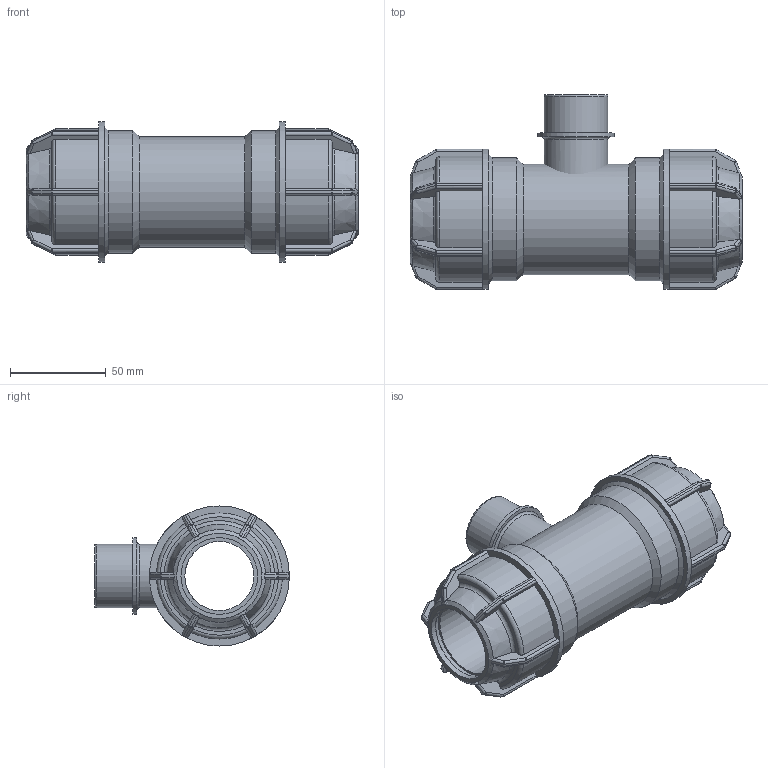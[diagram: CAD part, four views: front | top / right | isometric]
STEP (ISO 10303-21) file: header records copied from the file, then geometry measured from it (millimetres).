
FILE_DESCRIPTION(/* description */ ('PLASSON L.14 TEE MALE ADAPTOR (SILVER) 40-1"-40'),/* implementation_level */ '2;1');
FILE_NAME(/* name */ 'C:\Dropbox\KIMPROJECTS-Inventor\99-16-3568-Processing\Silver+MF ISRAEL\148400\148400040010.ipt.stp',/* time_stamp */ '2018-04-09T13:05:25+03:00',/* author */ ('KIM'),/* organization */ (''),/* preprocessor_version */ 'ST-DEVELOPER v15.6',/* originating_system */ 'Autodesk Inventor 2015',/* authorisation */ '');
FILE_SCHEMA (('AUTOMOTIVE_DESIGN { 1 0 10303 214 3 1 1 }'));
Length unit declared in the file: millimetre
Products named in the file (1): 148400040010
Bounding box: 173 x 101.5 x 73 mm (x, y, z)
Volume: 299826.4 mm3; surface area: 75286.5 mm2
Topology: 2 solids, 2 shells, 414 faces, 988 edges, 568 vertices
Faces by surface type: plane 194, cylinder 124, sphere 48, torus 30, cone 18
Full cylindrical faces by diameter (mm): 32 x2, 33.249 x2, 36 x1, 39.899 x1, 40 x4, 57.6 x1, 64 x2, 73 x2
Entity records: 12147 total; most frequent: CARTESIAN_POINT 3255, DIRECTION 1868, ORIENTED_EDGE 1822, EDGE_CURVE 911, AXIS2_PLACEMENT_3D 754, VERTEX_POINT 539, EDGE_LOOP 450, FACE_OUTER_BOUND 410
